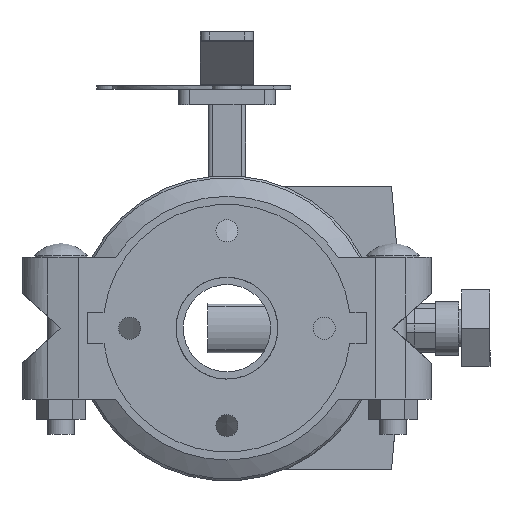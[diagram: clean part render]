
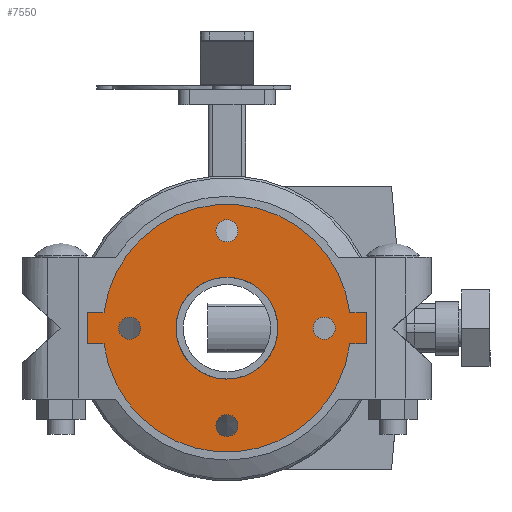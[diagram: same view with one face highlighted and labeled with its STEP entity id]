
A CAD part, front view. The second image highlights one B-rep face of the part: STEP entity #7550.
In plain terms, the highlighted planar face has unit normal (0, -1, 0) as drawn and (0, 0, -1) by its records, which use the part's own axes.
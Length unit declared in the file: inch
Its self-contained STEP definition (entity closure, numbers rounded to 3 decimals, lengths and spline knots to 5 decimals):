
#171=FACE_BOUND('',#932,.T.);
#172=FACE_BOUND('',#933,.T.);
#173=FACE_BOUND('',#934,.T.);
#174=FACE_BOUND('',#935,.T.);
#175=FACE_BOUND('',#936,.T.);
#264=PLANE('',#8177);
#512=FACE_OUTER_BOUND('',#931,.T.);
#931=EDGE_LOOP('',(#4836,#4837,#4838,#4839,#4840,#4841,#4842,#4843));
#932=EDGE_LOOP('',(#4844));
#933=EDGE_LOOP('',(#4845));
#934=EDGE_LOOP('',(#4846));
#935=EDGE_LOOP('',(#4847));
#936=EDGE_LOOP('',(#4848,#4849));
#1443=LINE('',#11453,#2017);
#1444=LINE('',#11455,#2018);
#1445=LINE('',#11457,#2019);
#1446=LINE('',#11461,#2020);
#1447=LINE('',#11463,#2021);
#1448=LINE('',#11464,#2022);
#2017=VECTOR('',#9094,0.3937);
#2018=VECTOR('',#9095,0.3937);
#2019=VECTOR('',#9096,0.3937);
#2020=VECTOR('',#9099,0.3937);
#2021=VECTOR('',#9100,0.3937);
#2022=VECTOR('',#9101,0.3937);
#2588=CIRCLE('',#8167,0.3125);
#2590=CIRCLE('',#8170,0.3125);
#2592=CIRCLE('',#8173,0.3125);
#2594=CIRCLE('',#8176,0.3125);
#2595=CIRCLE('',#8178,3.5);
#2596=CIRCLE('',#8179,3.5);
#2597=CIRCLE('',#8180,1.4375);
#2598=CIRCLE('',#8181,1.4375);
#3021=VERTEX_POINT('',#11427);
#3023=VERTEX_POINT('',#11433);
#3025=VERTEX_POINT('',#11439);
#3027=VERTEX_POINT('',#11445);
#3028=VERTEX_POINT('',#11449);
#3029=VERTEX_POINT('',#11450);
#3030=VERTEX_POINT('',#11452);
#3031=VERTEX_POINT('',#11454);
#3032=VERTEX_POINT('',#11456);
#3033=VERTEX_POINT('',#11458);
#3034=VERTEX_POINT('',#11460);
#3035=VERTEX_POINT('',#11462);
#3036=VERTEX_POINT('',#11465);
#3037=VERTEX_POINT('',#11466);
#3747=EDGE_CURVE('',#3021,#3021,#2588,.T.);
#3750=EDGE_CURVE('',#3023,#3023,#2590,.T.);
#3753=EDGE_CURVE('',#3025,#3025,#2592,.T.);
#3756=EDGE_CURVE('',#3027,#3027,#2594,.T.);
#3757=EDGE_CURVE('',#3028,#3029,#2595,.T.);
#3758=EDGE_CURVE('',#3029,#3030,#1443,.T.);
#3759=EDGE_CURVE('',#3030,#3031,#1444,.T.);
#3760=EDGE_CURVE('',#3031,#3032,#1445,.T.);
#3761=EDGE_CURVE('',#3032,#3033,#2596,.T.);
#3762=EDGE_CURVE('',#3033,#3034,#1446,.T.);
#3763=EDGE_CURVE('',#3034,#3035,#1447,.T.);
#3764=EDGE_CURVE('',#3035,#3028,#1448,.T.);
#3765=EDGE_CURVE('',#3036,#3037,#2597,.T.);
#3766=EDGE_CURVE('',#3037,#3036,#2598,.T.);
#4836=ORIENTED_EDGE('',*,*,#3757,.T.);
#4837=ORIENTED_EDGE('',*,*,#3758,.T.);
#4838=ORIENTED_EDGE('',*,*,#3759,.T.);
#4839=ORIENTED_EDGE('',*,*,#3760,.T.);
#4840=ORIENTED_EDGE('',*,*,#3761,.T.);
#4841=ORIENTED_EDGE('',*,*,#3762,.T.);
#4842=ORIENTED_EDGE('',*,*,#3763,.T.);
#4843=ORIENTED_EDGE('',*,*,#3764,.T.);
#4844=ORIENTED_EDGE('',*,*,#3747,.T.);
#4845=ORIENTED_EDGE('',*,*,#3750,.T.);
#4846=ORIENTED_EDGE('',*,*,#3753,.T.);
#4847=ORIENTED_EDGE('',*,*,#3756,.T.);
#4848=ORIENTED_EDGE('',*,*,#3765,.T.);
#4849=ORIENTED_EDGE('',*,*,#3766,.T.);
#7550=ADVANCED_FACE('',(#512,#171,#172,#173,#174,#175),#264,.T.);
#8167=AXIS2_PLACEMENT_3D('',#11429,#9067,#9068);
#8170=AXIS2_PLACEMENT_3D('',#11435,#9074,#9075);
#8173=AXIS2_PLACEMENT_3D('',#11441,#9081,#9082);
#8176=AXIS2_PLACEMENT_3D('',#11447,#9088,#9089);
#8177=AXIS2_PLACEMENT_3D('',#11448,#9090,#9091);
#8178=AXIS2_PLACEMENT_3D('',#11451,#9092,#9093);
#8179=AXIS2_PLACEMENT_3D('',#11459,#9097,#9098);
#8180=AXIS2_PLACEMENT_3D('',#11467,#9102,#9103);
#8181=AXIS2_PLACEMENT_3D('',#11468,#9104,#9105);
#9067=DIRECTION('center_axis',(0.,0.,1.));
#9068=DIRECTION('ref_axis',(0.,1.,0.));
#9074=DIRECTION('center_axis',(0.,0.,1.));
#9075=DIRECTION('ref_axis',(1.,0.,0.));
#9081=DIRECTION('center_axis',(0.,0.,1.));
#9082=DIRECTION('ref_axis',(0.,-1.,0.));
#9088=DIRECTION('center_axis',(0.,0.,1.));
#9089=DIRECTION('ref_axis',(-1.,0.,0.));
#9090=DIRECTION('center_axis',(0.,0.,-1.));
#9091=DIRECTION('ref_axis',(-1.,0.,0.));
#9092=DIRECTION('center_axis',(0.,0.,-1.));
#9093=DIRECTION('ref_axis',(-1.,0.,0.));
#9094=DIRECTION('',(0.,1.,0.));
#9095=DIRECTION('',(1.,0.,0.));
#9096=DIRECTION('',(0.,-1.,0.));
#9097=DIRECTION('center_axis',(0.,0.,-1.));
#9098=DIRECTION('ref_axis',(-1.,0.,0.));
#9099=DIRECTION('',(0.,-1.,0.));
#9100=DIRECTION('',(-1.,0.,0.));
#9101=DIRECTION('',(0.,1.,0.));
#9102=DIRECTION('center_axis',(0.,0.,1.));
#9103=DIRECTION('ref_axis',(-1.,0.,0.));
#9104=DIRECTION('center_axis',(0.,0.,1.));
#9105=DIRECTION('ref_axis',(-1.,0.,0.));
#11427=CARTESIAN_POINT('',(0.,2.4375,-0.44));
#11429=CARTESIAN_POINT('Origin',(0.,2.75,-0.44));
#11433=CARTESIAN_POINT('',(2.4375,0.,-0.44));
#11435=CARTESIAN_POINT('Origin',(2.75,0.,-0.44));
#11439=CARTESIAN_POINT('',(0.,-2.4375,-0.44));
#11441=CARTESIAN_POINT('Origin',(0.,-2.75,-0.44));
#11445=CARTESIAN_POINT('',(-2.4375,0.,-0.44));
#11447=CARTESIAN_POINT('Origin',(-2.75,0.,-0.44));
#11448=CARTESIAN_POINT('Origin',(0.,0.,-0.44));
#11449=CARTESIAN_POINT('',(-0.44,-3.47223,-0.44));
#11450=CARTESIAN_POINT('',(-0.44,3.47223,-0.44));
#11451=CARTESIAN_POINT('Origin',(0.,0.,-0.44));
#11452=CARTESIAN_POINT('',(-0.44,3.94,-0.44));
#11453=CARTESIAN_POINT('',(-0.44,-3.94,-0.44));
#11454=CARTESIAN_POINT('',(0.44,3.94,-0.44));
#11455=CARTESIAN_POINT('',(-0.44,3.94,-0.44));
#11456=CARTESIAN_POINT('',(0.44,3.47223,-0.44));
#11457=CARTESIAN_POINT('',(0.44,3.94,-0.44));
#11458=CARTESIAN_POINT('',(0.44,-3.47223,-0.44));
#11459=CARTESIAN_POINT('Origin',(0.,0.,-0.44));
#11460=CARTESIAN_POINT('',(0.44,-3.94,-0.44));
#11461=CARTESIAN_POINT('',(0.44,3.94,-0.44));
#11462=CARTESIAN_POINT('',(-0.44,-3.94,-0.44));
#11463=CARTESIAN_POINT('',(0.44,-3.94,-0.44));
#11464=CARTESIAN_POINT('',(-0.44,-3.94,-0.44));
#11465=CARTESIAN_POINT('',(0.44,1.36851,-0.44));
#11466=CARTESIAN_POINT('',(1.4375,0.,-0.44));
#11467=CARTESIAN_POINT('Origin',(0.,0.,-0.44));
#11468=CARTESIAN_POINT('Origin',(0.,0.,-0.44));
